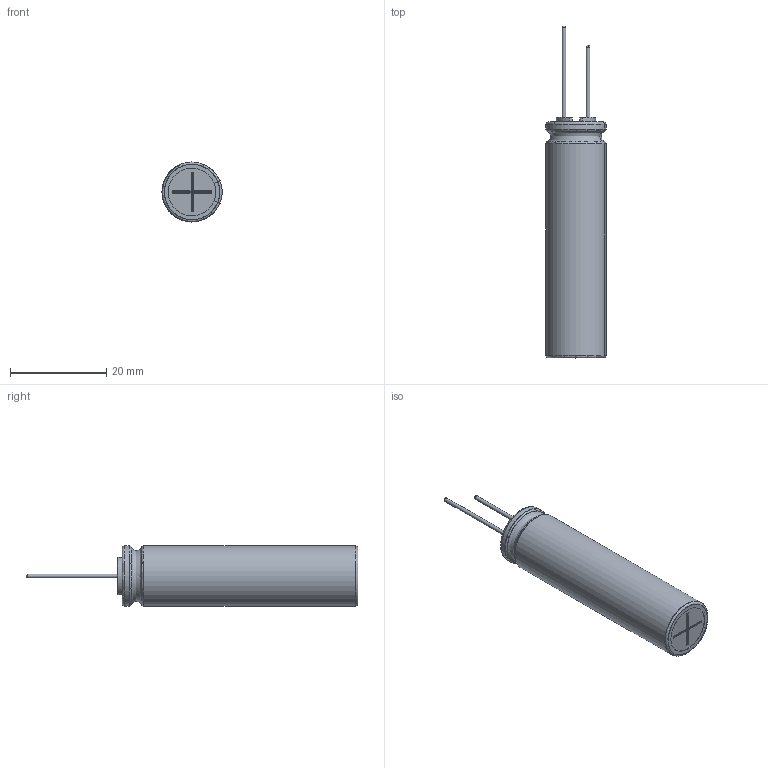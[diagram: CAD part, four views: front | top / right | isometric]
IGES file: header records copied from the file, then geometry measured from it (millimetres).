
Start section: JAMA-IS VERSION  1.0
Bounding box: 12.48 x 69 x 12.5 mm (x, y, z)
Surface area: 6298.8 mm2 (no closed solid volume)
Topology: 0 solids, 0 shells, 132 faces, 1445 edges, 1424 vertices
Faces by surface type: bspline 132
